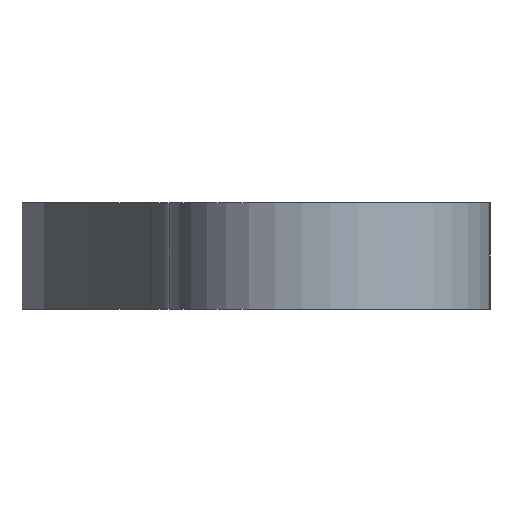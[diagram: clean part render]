
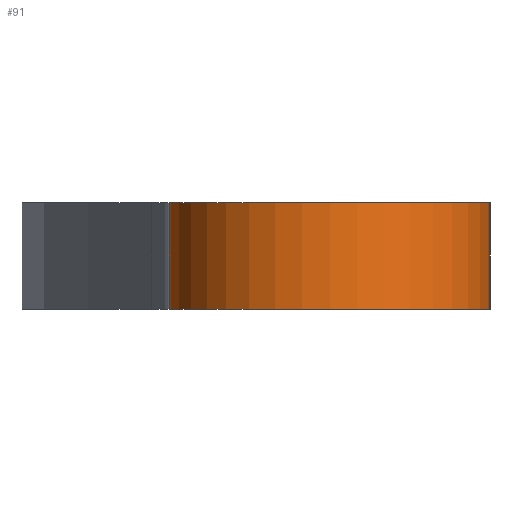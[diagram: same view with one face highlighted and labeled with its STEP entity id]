
A CAD part, left-side view. The second image highlights one B-rep face of the part: STEP entity #91.
In plain terms, the highlighted cylindrical face has radius 15 mm (diameter 30 mm), a partial arc.
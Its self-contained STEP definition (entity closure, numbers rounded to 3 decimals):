
#91 = ADVANCED_FACE( '', ( #185 ), #186, .T. );
#185 = FACE_OUTER_BOUND( '', #276, .T. );
#186 = CYLINDRICAL_SURFACE( '', #277, 15. );
#276 = EDGE_LOOP( '', ( #473, #474, #475, #476 ) );
#277 = AXIS2_PLACEMENT_3D( '', #477, #478, #479 );
#473 = ORIENTED_EDGE( '', *, *, #560, .F. );
#474 = ORIENTED_EDGE( '', *, *, #527, .F. );
#475 = ORIENTED_EDGE( '', *, *, #607, .T. );
#476 = ORIENTED_EDGE( '', *, *, #598, .T. );
#477 = CARTESIAN_POINT( '', ( 0., 0., 10. ) );
#478 = DIRECTION( '', ( 0., 0., 1. ) );
#479 = DIRECTION( '', ( -1., 0., 0. ) );
#527 = EDGE_CURVE( '', #620, #616, #622, .T. );
#560 = EDGE_CURVE( '', #616, #650, #679, .T. );
#598 = EDGE_CURVE( '', #731, #650, #733, .T. );
#607 = EDGE_CURVE( '', #620, #731, #743, .T. );
#616 = VERTEX_POINT( '', #753 );
#620 = VERTEX_POINT( '', #759 );
#622 = LINE( '', #762, #763 );
#650 = VERTEX_POINT( '', #795 );
#679 = CIRCLE( '', #829, 15. );
#731 = VERTEX_POINT( '', #894 );
#733 = LINE( '', #897, #898 );
#743 = CIRCLE( '', #911, 15. );
#753 = CARTESIAN_POINT( '', ( 0., -15., 0. ) );
#759 = CARTESIAN_POINT( '', ( 0., -15., 10. ) );
#762 = CARTESIAN_POINT( '', ( 0., -15., 10. ) );
#763 = VECTOR( '', #923, 1000. );
#795 = CARTESIAN_POINT( '', ( 0., 15., 0. ) );
#829 = AXIS2_PLACEMENT_3D( '', #987, #988, #989 );
#894 = CARTESIAN_POINT( '', ( 0., 15., 10. ) );
#897 = CARTESIAN_POINT( '', ( 0., 15., 10. ) );
#898 = VECTOR( '', #1037, 1000. );
#911 = AXIS2_PLACEMENT_3D( '', #1044, #1045, #1046 );
#923 = DIRECTION( '', ( 0., 0., -1. ) );
#987 = CARTESIAN_POINT( '', ( 0., 0., 0. ) );
#988 = DIRECTION( '', ( 0., 0., -1. ) );
#989 = DIRECTION( '', ( 1., 0., 0. ) );
#1037 = DIRECTION( '', ( 0., 0., -1. ) );
#1044 = CARTESIAN_POINT( '', ( 0., 0., 10. ) );
#1045 = DIRECTION( '', ( 0., 0., -1. ) );
#1046 = DIRECTION( '', ( 1., 0., 0. ) );
